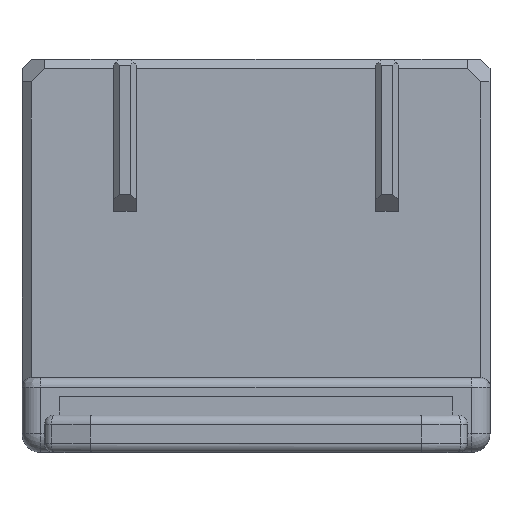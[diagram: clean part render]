
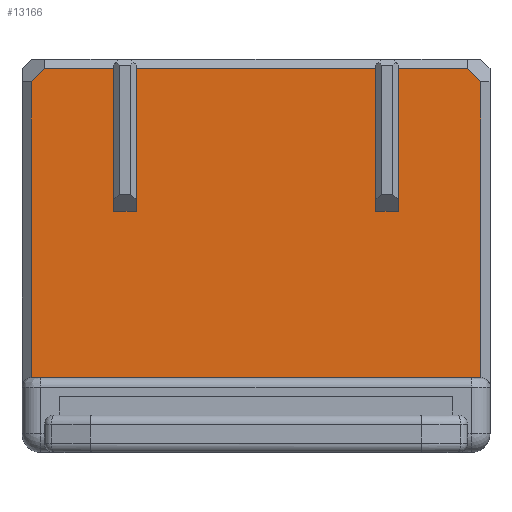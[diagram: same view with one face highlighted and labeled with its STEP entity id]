
A CAD part, front view. The second image highlights one B-rep face of the part: STEP entity #13166.
In plain terms, the highlighted planar face has unit normal (0, -1, 0).
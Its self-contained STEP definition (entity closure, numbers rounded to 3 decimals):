
#123=CARTESIAN_POINT('',(11.99,-5.8,-17.));
#124=CARTESIAN_POINT('',(11.992,-5.8,-17.));
#125=CARTESIAN_POINT('',(11.995,-5.8,-17.));
#126=CARTESIAN_POINT('',(11.998,-5.8,-17.));
#127=CARTESIAN_POINT('',(12.,-5.8,-17.));
#129=CARTESIAN_POINT('',(-12.,-5.8,-17.));
#130=CARTESIAN_POINT('',(-11.998,-5.8,-17.));
#131=CARTESIAN_POINT('',(-11.995,-5.8,-17.));
#132=CARTESIAN_POINT('',(-11.992,-5.8,-17.));
#133=CARTESIAN_POINT('',(-11.99,-5.8,-17.));
#135=DIRECTION('',(0.,0.,1.));
#136=VECTOR('',#135,15.8);
#137=CARTESIAN_POINT('',(-12.,-5.8,-17.));
#138=LINE('',#137,#136);
#139=DIRECTION('',(-0.707,0.,-0.707));
#140=VECTOR('',#139,0.99);
#141=CARTESIAN_POINT('',(-11.3,-5.8,-0.5));
#142=LINE('',#141,#140);
#143=DIRECTION('',(-1.,0.,0.));
#144=VECTOR('',#143,3.7);
#145=CARTESIAN_POINT('',(-7.6,-5.8,-0.5));
#146=LINE('',#145,#144);
#147=DIRECTION('',(0.,0.,-1.));
#148=VECTOR('',#147,7.6);
#149=CARTESIAN_POINT('',(-7.6,-5.8,-0.5));
#150=LINE('',#149,#148);
#151=DIRECTION('',(1.,0.,0.));
#152=VECTOR('',#151,1.2);
#153=CARTESIAN_POINT('',(-7.6,-5.8,-8.1));
#154=LINE('',#153,#152);
#155=DIRECTION('',(0.,0.,-1.));
#156=VECTOR('',#155,7.6);
#157=CARTESIAN_POINT('',(-6.4,-5.8,-0.5));
#158=LINE('',#157,#156);
#159=DIRECTION('',(-1.,0.,0.));
#160=VECTOR('',#159,12.8);
#161=CARTESIAN_POINT('',(6.4,-5.8,-0.5));
#162=LINE('',#161,#160);
#163=DIRECTION('',(0.,0.,-1.));
#164=VECTOR('',#163,7.6);
#165=CARTESIAN_POINT('',(6.4,-5.8,-0.5));
#166=LINE('',#165,#164);
#167=DIRECTION('',(1.,0.,0.));
#168=VECTOR('',#167,1.2);
#169=CARTESIAN_POINT('',(6.4,-5.8,-8.1));
#170=LINE('',#169,#168);
#171=DIRECTION('',(0.,0.,-1.));
#172=VECTOR('',#171,7.6);
#173=CARTESIAN_POINT('',(7.6,-5.8,-0.5));
#174=LINE('',#173,#172);
#175=DIRECTION('',(-1.,0.,0.));
#176=VECTOR('',#175,3.7);
#177=CARTESIAN_POINT('',(11.3,-5.8,-0.5));
#178=LINE('',#177,#176);
#179=DIRECTION('',(0.707,0.,-0.707));
#180=VECTOR('',#179,0.99);
#181=CARTESIAN_POINT('',(11.3,-5.8,-0.5));
#182=LINE('',#181,#180);
#183=DIRECTION('',(0.,0.,-1.));
#184=VECTOR('',#183,15.8);
#185=CARTESIAN_POINT('',(12.,-5.8,-1.2));
#186=LINE('',#185,#184);
#217=DIRECTION('',(1.,0.,0.));
#218=VECTOR('',#217,23.98);
#219=CARTESIAN_POINT('',(-11.99,-5.8,-17.));
#220=LINE('',#219,#218);
#10250=CARTESIAN_POINT('',(-7.6,-5.8,-8.1));
#10251=CARTESIAN_POINT('',(-6.4,-5.8,-8.1));
#10252=VERTEX_POINT('',#10250);
#10253=VERTEX_POINT('',#10251);
#10254=CARTESIAN_POINT('',(6.4,-5.8,-8.1));
#10255=CARTESIAN_POINT('',(7.6,-5.8,-8.1));
#10256=VERTEX_POINT('',#10254);
#10257=VERTEX_POINT('',#10255);
#11994=CARTESIAN_POINT('',(12.,-5.8,-1.2));
#11996=VERTEX_POINT('',#11994);
#12062=CARTESIAN_POINT('',(-11.3,-5.8,-0.5));
#12064=VERTEX_POINT('',#12062);
#12068=CARTESIAN_POINT('',(-7.6,-5.8,-0.5));
#12069=VERTEX_POINT('',#12068);
#12074=CARTESIAN_POINT('',(11.3,-5.8,-0.5));
#12075=VERTEX_POINT('',#12074);
#12076=CARTESIAN_POINT('',(7.6,-5.8,-0.5));
#12077=VERTEX_POINT('',#12076);
#12082=CARTESIAN_POINT('',(6.4,-5.8,-0.5));
#12083=CARTESIAN_POINT('',(-6.4,-5.8,-0.5));
#12084=VERTEX_POINT('',#12082);
#12085=VERTEX_POINT('',#12083);
#12087=CARTESIAN_POINT('',(-12.,-5.8,-1.2));
#12089=VERTEX_POINT('',#12087);
#12191=CARTESIAN_POINT('',(11.99,-5.8,-17.));
#12193=VERTEX_POINT('',#12191);
#12194=VERTEX_POINT('',#127);
#12203=VERTEX_POINT('',#129);
#12204=VERTEX_POINT('',#133);
#13128=CARTESIAN_POINT('',(-12.5,-5.8,0.));
#13129=DIRECTION('',(0.,-1.,0.));
#13130=DIRECTION('',(0.,0.,-1.));
#13131=AXIS2_PLACEMENT_3D('',#13128,#13129,#13130);
#13132=PLANE('',#13131);
#13134=ORIENTED_EDGE('',*,*,#13133,.F.);
#13136=ORIENTED_EDGE('',*,*,#13135,.F.);
#13138=ORIENTED_EDGE('',*,*,#13137,.F.);
#13139=ORIENTED_EDGE('',*,*,#13117,.T.);
#13141=ORIENTED_EDGE('',*,*,#13140,.F.);
#13143=ORIENTED_EDGE('',*,*,#13142,.F.);
#13145=ORIENTED_EDGE('',*,*,#13144,.T.);
#13147=ORIENTED_EDGE('',*,*,#13146,.T.);
#13149=ORIENTED_EDGE('',*,*,#13148,.F.);
#13151=ORIENTED_EDGE('',*,*,#13150,.F.);
#13153=ORIENTED_EDGE('',*,*,#13152,.T.);
#13155=ORIENTED_EDGE('',*,*,#13154,.T.);
#13157=ORIENTED_EDGE('',*,*,#13156,.F.);
#13159=ORIENTED_EDGE('',*,*,#13158,.F.);
#13161=ORIENTED_EDGE('',*,*,#13160,.T.);
#13163=ORIENTED_EDGE('',*,*,#13162,.T.);
#13164=EDGE_LOOP('',(#13134,#13136,#13138,#13139,#13141,#13143,#13145,#13147,
#13149,#13151,#13153,#13155,#13157,#13159,#13161,#13163));
#13165=FACE_OUTER_BOUND('',#13164,.F.);
#13166=ADVANCED_FACE('',(#13165),#13132,.T.);
#128=B_SPLINE_CURVE_WITH_KNOTS('',3,(#123,#124,#125,#126,#127),.UNSPECIFIED.,
.F.,.F.,(4,1,4),(0.,0.5,1.),.UNSPECIFIED.);
#134=B_SPLINE_CURVE_WITH_KNOTS('',3,(#129,#130,#131,#132,#133),.UNSPECIFIED.,
.F.,.F.,(4,1,4),(0.,0.5,1.),.UNSPECIFIED.);
#13117=EDGE_CURVE('',#12203,#12089,#138,.T.);
#13133=EDGE_CURVE('',#12193,#12194,#128,.T.);
#13135=EDGE_CURVE('',#12204,#12193,#220,.T.);
#13137=EDGE_CURVE('',#12203,#12204,#134,.T.);
#13140=EDGE_CURVE('',#12064,#12089,#142,.T.);
#13142=EDGE_CURVE('',#12069,#12064,#146,.T.);
#13144=EDGE_CURVE('',#12069,#10252,#150,.T.);
#13146=EDGE_CURVE('',#10252,#10253,#154,.T.);
#13148=EDGE_CURVE('',#12085,#10253,#158,.T.);
#13150=EDGE_CURVE('',#12084,#12085,#162,.T.);
#13152=EDGE_CURVE('',#12084,#10256,#166,.T.);
#13154=EDGE_CURVE('',#10256,#10257,#170,.T.);
#13156=EDGE_CURVE('',#12077,#10257,#174,.T.);
#13158=EDGE_CURVE('',#12075,#12077,#178,.T.);
#13160=EDGE_CURVE('',#12075,#11996,#182,.T.);
#13162=EDGE_CURVE('',#11996,#12194,#186,.T.);
